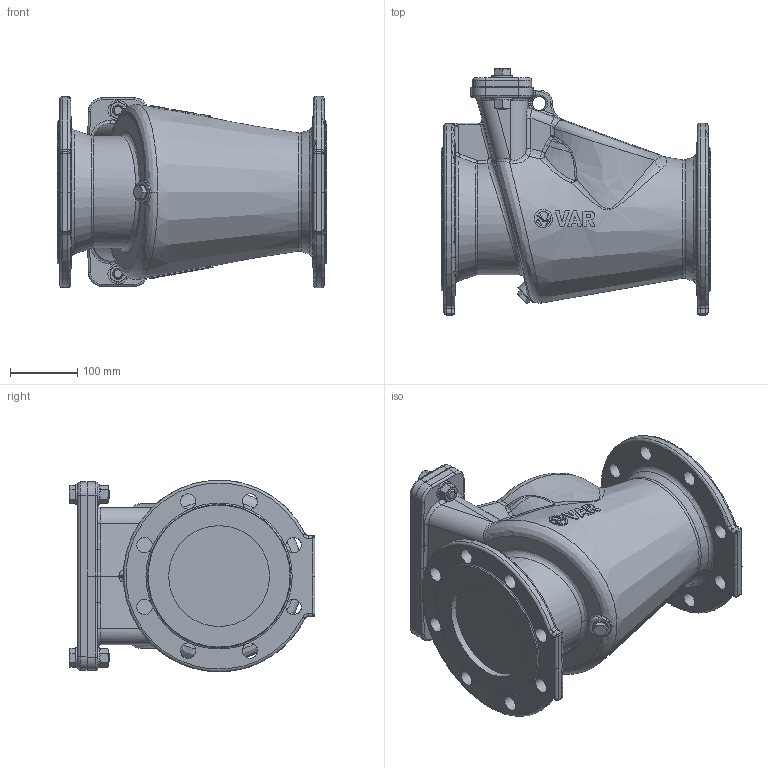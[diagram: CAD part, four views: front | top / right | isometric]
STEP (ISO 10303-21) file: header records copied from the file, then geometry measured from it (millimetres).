
FILE_DESCRIPTION(('STEP AP242'), '1');
FILE_NAME('VAR RETO-STOP 吾疣蝽 觌囡囗 DN 150 PN 16', '2026-06-28T08:25:32', (' '), (' '), 'C3D Converter', 'C3D Toolkit', '');
FILE_SCHEMA(('AP242_MANAGED_MODEL_BASED_3D_ENGINEERING_MIM_LF { 1 0 10303 442 1 1 4 }'));
Length unit declared in the file: millimetre
Products named in the file (1): Admi10D408D9fenz
Bounding box: 400 x 365.5 x 284.77 mm (x, y, z)
Volume: 17231028.8 mm3; surface area: 609906.1 mm2
Topology: 1 solids, 6 shells, 718 faces, 1873 edges, 1170 vertices
Faces by surface type: plane 215, bspline 158, extrusion 138, cylinder 117, cone 62, torus 28
Full cylindrical faces by diameter (mm): 11.053 x1, 12.5 x1, 15.053 x2, 16 x2, 17 x4, 17.2 x1, 22 x3, 23 x16, 24 x1, 27.101 x1, 30 x4, 150 x2
Entity records: 67140 total; most frequent: CARTESIAN_POINT 46829, ORIENTED_EDGE 3546, DIRECTION 2145, EDGE_CURVE 1773, VERTEX_POINT 1151, B_SPLINE_CURVE_WITH_KNOTS 1081, EDGE_LOOP 846, FACE_BOUND 786
